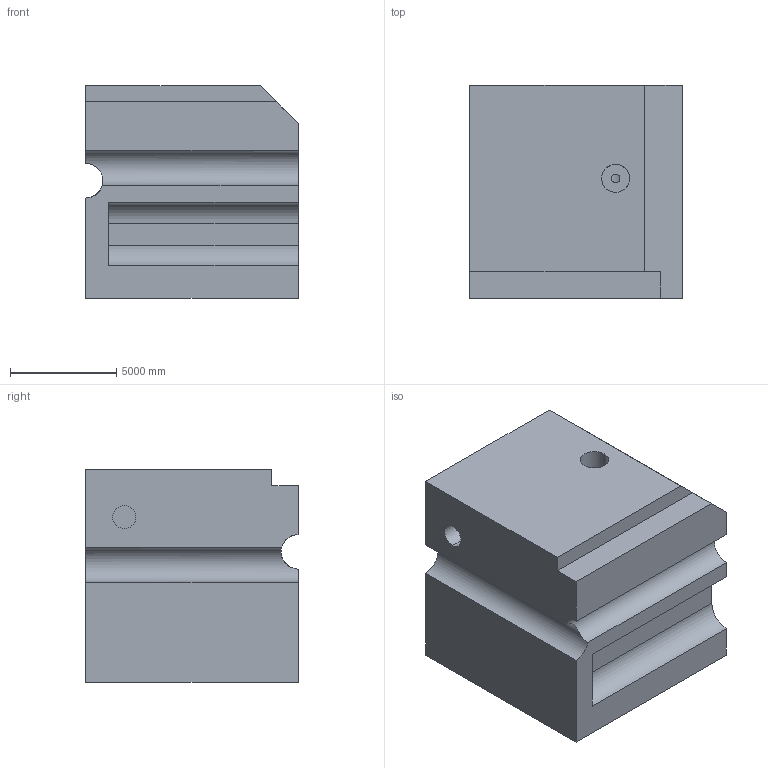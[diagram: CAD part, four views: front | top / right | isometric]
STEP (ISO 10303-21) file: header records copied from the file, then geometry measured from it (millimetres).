
FILE_DESCRIPTION (( 'STEP AP203' ), '1' );
FILE_NAME ('87.STEP', '2022-08-30T14:29:58', ( 'user' ), ( '' ), 'SwSTEP 2.0', 'SolidWorks 2021', '' );
FILE_SCHEMA (( 'CONFIG_CONTROL_DESIGN' ));
Length unit declared in the file: centimetre
Products named in the file (1): 87
Bounding box: 10000 x 10000 x 10000 mm (x, y, z)
Volume: 900262208127.7 mm3; surface area: 711328935.2 mm2
Topology: 1 solids, 1 shells, 34 faces, 87 edges, 58 vertices
Faces by surface type: plane 20, cylinder 14
Entity records: 1971 total; most frequent: CARTESIAN_POINT 1055, ORIENTED_EDGE 174, DIRECTION 170, EDGE_CURVE 87, VERTEX_POINT 58, AXIS2_PLACEMENT_3D 57, VECTOR 56, LINE 56
